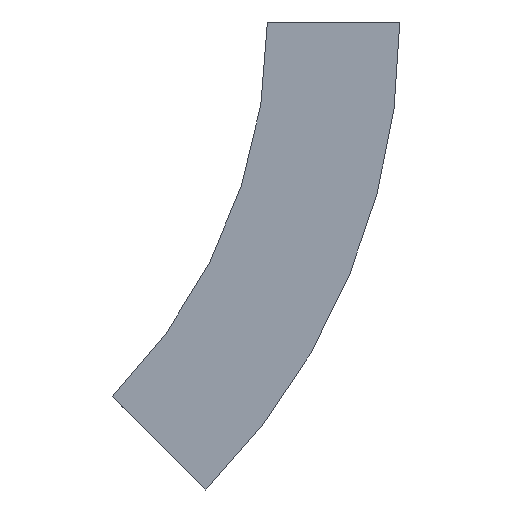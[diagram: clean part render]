
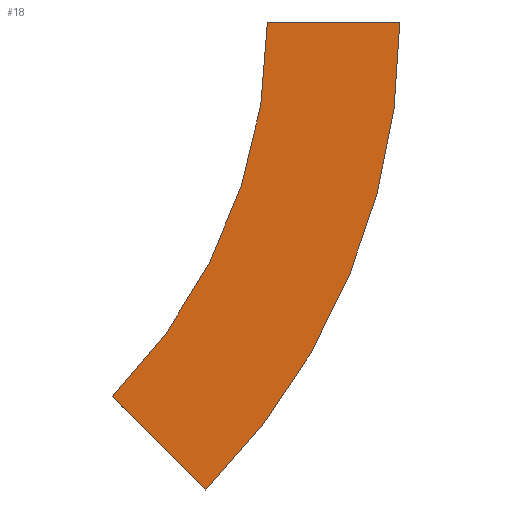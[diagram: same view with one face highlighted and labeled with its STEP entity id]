
A CAD part, left-side view. The second image highlights one B-rep face of the part: STEP entity #18.
In plain terms, the highlighted planar face has unit normal (-1, 0, 0) as drawn and (1, 0, 0) by its records, which use the part's own axes.
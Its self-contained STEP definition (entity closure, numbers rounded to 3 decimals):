
#7 = EDGE_CURVE ( 'NONE', #263, #8, #454, .T. ) ;
#8 = VERTEX_POINT ( 'NONE', #17 ) ;
#17 = CARTESIAN_POINT ( 'NONE',  ( 0., 0., 0. ) ) ;
#18 = ADVANCED_FACE ( 'NONE', ( #104 ), #450, .F. ) ;
#35 = DIRECTION ( 'NONE',  ( 0., -1., 0. ) ) ;
#37 = EDGE_CURVE ( 'NONE', #230, #92, #361, .T. ) ;
#92 = VERTEX_POINT ( 'NONE', #344 ) ;
#100 = EDGE_CURVE ( 'NONE', #263, #230, #204, .T. ) ;
#104 = FACE_OUTER_BOUND ( 'NONE', #154, .T. ) ;
#114 = DIRECTION ( 'NONE',  ( 0., -1., 0. ) ) ;
#136 = AXIS2_PLACEMENT_3D ( 'NONE', #408, #191, #359 ) ;
#154 = EDGE_LOOP ( 'NONE', ( #347, #427, #180, #184 ) ) ;
#158 = DIRECTION ( 'NONE',  ( 0., 0.707, 0.707 ) ) ;
#180 = ORIENTED_EDGE ( 'NONE', *, *, #100, .T. ) ;
#184 = ORIENTED_EDGE ( 'NONE', *, *, #37, .T. ) ;
#191 = DIRECTION ( 'NONE',  ( -1., 0., 0. ) ) ;
#204 = CIRCLE ( 'NONE', #350, 375. ) ;
#230 = VERTEX_POINT ( 'NONE', #373 ) ;
#237 = DIRECTION ( 'NONE',  ( 0., 1., 0. ) ) ;
#251 = CARTESIAN_POINT ( 'NONE',  ( 0., 300., 0. ) ) ;
#263 = VERTEX_POINT ( 'NONE', #420 ) ;
#272 = CIRCLE ( 'NONE', #352, 300. ) ;
#278 = EDGE_CURVE ( 'NONE', #8, #92, #272, .T. ) ;
#317 = CARTESIAN_POINT ( 'NONE',  ( 0., 300., 0. ) ) ;
#344 = CARTESIAN_POINT ( 'NONE',  ( 0., 87.868, -212.132 ) ) ;
#347 = ORIENTED_EDGE ( 'NONE', *, *, #278, .F. ) ;
#350 = AXIS2_PLACEMENT_3D ( 'NONE', #317, #449, #114 ) ;
#352 = AXIS2_PLACEMENT_3D ( 'NONE', #251, #374, #35 ) ;
#359 = DIRECTION ( 'NONE',  ( 0., 0., 1. ) ) ;
#361 = LINE ( 'NONE', #547, #429 ) ;
#373 = CARTESIAN_POINT ( 'NONE',  ( 0., 34.835, -265.165 ) ) ;
#374 = DIRECTION ( 'NONE',  ( 1., 0., 0. ) ) ;
#408 = CARTESIAN_POINT ( 'NONE',  ( 0., -75., 0. ) ) ;
#420 = CARTESIAN_POINT ( 'NONE',  ( 0., -75., 0. ) ) ;
#427 = ORIENTED_EDGE ( 'NONE', *, *, #7, .F. ) ;
#429 = VECTOR ( 'NONE', #158, 1000. ) ;
#449 = DIRECTION ( 'NONE',  ( 1., 0., 0. ) ) ;
#450 = PLANE ( 'NONE',  #136 ) ;
#454 = LINE ( 'NONE', #492, #533 ) ;
#492 = CARTESIAN_POINT ( 'NONE',  ( 0., -75., 0. ) ) ;
#533 = VECTOR ( 'NONE', #237, 1000. ) ;
#547 = CARTESIAN_POINT ( 'NONE',  ( 0., 34.835, -265.165 ) ) ;
